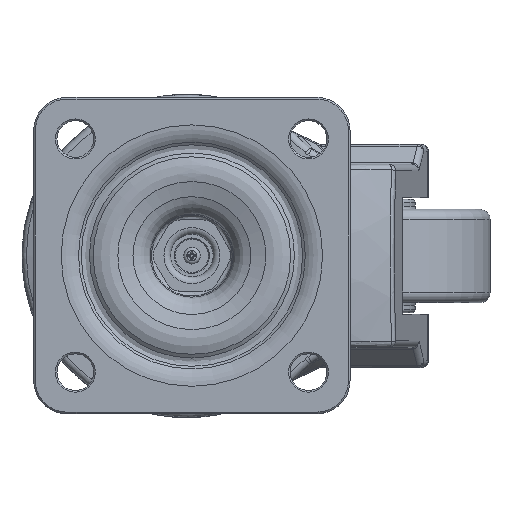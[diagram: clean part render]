
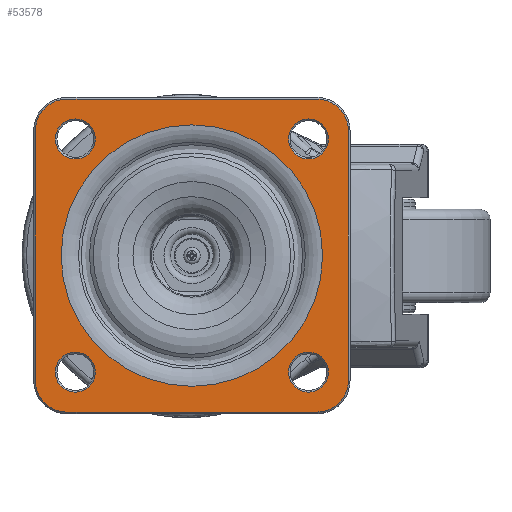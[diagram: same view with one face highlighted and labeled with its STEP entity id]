
A CAD part, top view. The second image highlights one B-rep face of the part: STEP entity #53578.
In plain terms, the highlighted planar face has unit normal (0, 0, 1).
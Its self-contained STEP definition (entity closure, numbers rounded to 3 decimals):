
#51987=CARTESIAN_POINT('',(526.971,76.38,81.313));
#51988=VERTEX_POINT('',#51987);
#51989=CARTESIAN_POINT('',(566.22,76.38,81.313));
#51990=DIRECTION('',(0.0,0.0,1.0));
#51991=DIRECTION('',(-1.0,0.0,0.0));
#51992=AXIS2_PLACEMENT_3D('',#51989,#51990,#51991);
#51993=CIRCLE('',#51992,39.249);
#51994=EDGE_CURVE('',#51988,#51988,#51993,.T.);
#52614=CARTESIAN_POINT('',(537.22,111.38,81.313));
#52615=VERTEX_POINT('',#52614);
#52616=CARTESIAN_POINT('',(531.22,111.38,81.313));
#52617=DIRECTION('',(0.0,0.0,1.0));
#52618=DIRECTION('',(-1.0,0.0,0.0));
#52619=AXIS2_PLACEMENT_3D('',#52616,#52617,#52618);
#52620=CIRCLE('',#52619,6.);
#52621=EDGE_CURVE('',#52615,#52615,#52620,.T.);
#52682=CARTESIAN_POINT('',(607.22,111.38,81.313));
#52683=VERTEX_POINT('',#52682);
#52684=CARTESIAN_POINT('',(601.22,111.38,81.313));
#52685=DIRECTION('',(0.0,0.0,1.0));
#52686=DIRECTION('',(-1.0,0.0,0.0));
#52687=AXIS2_PLACEMENT_3D('',#52684,#52685,#52686);
#52688=CIRCLE('',#52687,6.);
#52689=EDGE_CURVE('',#52683,#52683,#52688,.T.);
#52750=CARTESIAN_POINT('',(607.22,41.38,81.313));
#52751=VERTEX_POINT('',#52750);
#52752=CARTESIAN_POINT('',(601.22,41.38,81.313));
#52753=DIRECTION('',(0.0,0.0,1.0));
#52754=DIRECTION('',(-1.0,0.0,0.0));
#52755=AXIS2_PLACEMENT_3D('',#52752,#52753,#52754);
#52756=CIRCLE('',#52755,6.);
#52757=EDGE_CURVE('',#52751,#52751,#52756,.T.);
#52818=CARTESIAN_POINT('',(537.22,41.38,81.313));
#52819=VERTEX_POINT('',#52818);
#52820=CARTESIAN_POINT('',(531.22,41.38,81.313));
#52821=DIRECTION('',(0.0,0.0,1.0));
#52822=DIRECTION('',(-1.0,0.0,0.0));
#52823=AXIS2_PLACEMENT_3D('',#52820,#52821,#52822);
#52824=CIRCLE('',#52823,6.);
#52825=EDGE_CURVE('',#52819,#52819,#52824,.T.);
#52970=CARTESIAN_POINT('',(603.72,123.38,81.313));
#52971=VERTEX_POINT('',#52970);
#52972=CARTESIAN_POINT('',(613.22,113.88,81.313));
#52973=VERTEX_POINT('',#52972);
#52974=CARTESIAN_POINT('',(603.72,113.88,81.313));
#52975=DIRECTION('',(0.0,0.0,-1.));
#52976=DIRECTION('',(0.707,0.707,0.0));
#52977=AXIS2_PLACEMENT_3D('',#52974,#52975,#52976);
#52978=CIRCLE('',#52977,9.5);
#52979=EDGE_CURVE('',#52971,#52973,#52978,.T.);
#53002=CARTESIAN_POINT('',(519.22,113.88,81.313));
#53003=VERTEX_POINT('',#53002);
#53004=CARTESIAN_POINT('',(528.72,123.38,81.313));
#53005=VERTEX_POINT('',#53004);
#53006=CARTESIAN_POINT('',(528.72,113.88,81.313));
#53007=DIRECTION('',(0.0,0.0,-1.0));
#53008=DIRECTION('',(-0.707,0.707,0.0));
#53009=AXIS2_PLACEMENT_3D('',#53006,#53007,#53008);
#53010=CIRCLE('',#53009,9.5);
#53011=EDGE_CURVE('',#53003,#53005,#53010,.T.);
#53044=CARTESIAN_POINT('',(613.22,38.88,81.313));
#53045=VERTEX_POINT('',#53044);
#53046=CARTESIAN_POINT('',(603.72,29.38,81.313));
#53047=VERTEX_POINT('',#53046);
#53048=CARTESIAN_POINT('',(603.72,38.88,81.313));
#53049=DIRECTION('',(0.0,0.0,-1.));
#53050=DIRECTION('',(0.707,-0.707,0.0));
#53051=AXIS2_PLACEMENT_3D('',#53048,#53049,#53050);
#53052=CIRCLE('',#53051,9.5);
#53053=EDGE_CURVE('',#53045,#53047,#53052,.T.);
#53076=CARTESIAN_POINT('',(528.72,29.38,81.313));
#53077=VERTEX_POINT('',#53076);
#53078=CARTESIAN_POINT('',(519.22,38.88,81.313));
#53079=VERTEX_POINT('',#53078);
#53080=CARTESIAN_POINT('',(528.72,38.88,81.313));
#53081=DIRECTION('',(0.0,0.0,-1.));
#53082=DIRECTION('',(-0.707,-0.707,0.0));
#53083=AXIS2_PLACEMENT_3D('',#53080,#53081,#53082);
#53084=CIRCLE('',#53083,9.5);
#53085=EDGE_CURVE('',#53077,#53079,#53084,.T.);
#53466=CARTESIAN_POINT('',(603.72,29.38,81.313));
#53467=DIRECTION('',(-1.0,0.0,0.0));
#53468=VECTOR('',#53467,75.0);
#53469=LINE('',#53466,#53468);
#53470=EDGE_CURVE('',#53047,#53077,#53469,.T.);
#53483=CARTESIAN_POINT('',(519.22,38.88,81.313));
#53484=DIRECTION('',(0.0,1.0,0.0));
#53485=VECTOR('',#53484,75.);
#53486=LINE('',#53483,#53485);
#53487=EDGE_CURVE('',#53079,#53003,#53486,.T.);
#53498=CARTESIAN_POINT('',(613.22,113.88,81.313));
#53499=DIRECTION('',(0.0,-1.0,0.0));
#53500=VECTOR('',#53499,75.);
#53501=LINE('',#53498,#53500);
#53502=EDGE_CURVE('',#52973,#53045,#53501,.T.);
#53520=CARTESIAN_POINT('',(528.72,123.38,81.313));
#53521=DIRECTION('',(1.0,0.0,0.0));
#53522=VECTOR('',#53521,75.0);
#53523=LINE('',#53520,#53522);
#53524=EDGE_CURVE('',#53005,#52971,#53523,.T.);
#53548=CARTESIAN_POINT('',(526.573,76.38,81.313));
#53549=DIRECTION('',(0.0,0.0,1.0));
#53550=DIRECTION('',(1.0,0.0,0.0));
#53551=AXIS2_PLACEMENT_3D('',#53548,#53549,#53550);
#53552=PLANE('',#53551);
#53553=ORIENTED_EDGE('',*,*,#53470,.F.);
#53554=ORIENTED_EDGE('',*,*,#53053,.F.);
#53555=ORIENTED_EDGE('',*,*,#53502,.F.);
#53556=ORIENTED_EDGE('',*,*,#52979,.F.);
#53557=ORIENTED_EDGE('',*,*,#53524,.F.);
#53558=ORIENTED_EDGE('',*,*,#53011,.F.);
#53559=ORIENTED_EDGE('',*,*,#53487,.F.);
#53560=ORIENTED_EDGE('',*,*,#53085,.F.);
#53561=EDGE_LOOP('',(#53553,#53554,#53555,#53556,#53557,#53558,#53559,#53560));
#53562=FACE_OUTER_BOUND('',#53561,.T.);
#53563=ORIENTED_EDGE('',*,*,#52825,.F.);
#53564=EDGE_LOOP('',(#53563));
#53565=FACE_BOUND('',#53564,.T.);
#53566=ORIENTED_EDGE('',*,*,#52689,.F.);
#53567=EDGE_LOOP('',(#53566));
#53568=FACE_BOUND('',#53567,.T.);
#53569=ORIENTED_EDGE('',*,*,#51994,.F.);
#53570=EDGE_LOOP('',(#53569));
#53571=FACE_BOUND('',#53570,.T.);
#53572=ORIENTED_EDGE('',*,*,#52621,.F.);
#53573=EDGE_LOOP('',(#53572));
#53574=FACE_BOUND('',#53573,.T.);
#53575=ORIENTED_EDGE('',*,*,#52757,.F.);
#53576=EDGE_LOOP('',(#53575));
#53577=FACE_BOUND('',#53576,.T.);
#53578=ADVANCED_FACE('',(#53562,#53565,#53568,#53571,#53574,#53577),#53552,.T.);
